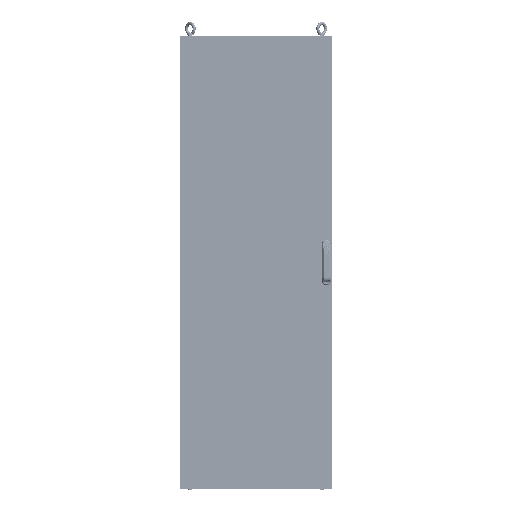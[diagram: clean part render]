
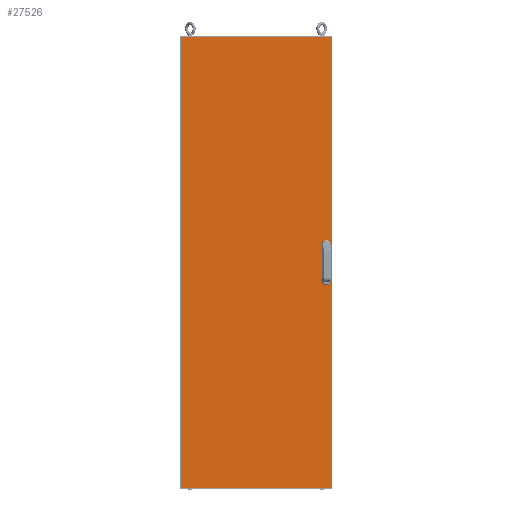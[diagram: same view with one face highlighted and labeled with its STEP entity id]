
A CAD part, front view. The second image highlights one B-rep face of the part: STEP entity #27526.
In plain terms, the highlighted planar face has unit normal (0, -1, 0).
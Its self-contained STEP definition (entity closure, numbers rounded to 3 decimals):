
#7242=ORIENTED_EDGE('',*,*,#12186,.T.);
#7243=ORIENTED_EDGE('',*,*,#12187,.T.);
#7244=ORIENTED_EDGE('',*,*,#12188,.T.);
#7245=ORIENTED_EDGE('',*,*,#12189,.T.);
#7246=ORIENTED_EDGE('',*,*,#12190,.T.);
#7247=ORIENTED_EDGE('',*,*,#12191,.T.);
#7248=ORIENTED_EDGE('',*,*,#12192,.T.);
#7249=ORIENTED_EDGE('',*,*,#12193,.T.);
#7250=ORIENTED_EDGE('',*,*,#12180,.F.);
#7251=ORIENTED_EDGE('',*,*,#12183,.F.);
#7252=ORIENTED_EDGE('',*,*,#12177,.F.);
#7253=ORIENTED_EDGE('',*,*,#12185,.F.);
#12177=EDGE_CURVE('',#15081,#15079,#17783,.T.);
#12180=EDGE_CURVE('',#15084,#15085,#17786,.T.);
#12183=EDGE_CURVE('',#15079,#15084,#17789,.T.);
#12185=EDGE_CURVE('',#15085,#15081,#17791,.T.);
#12186=EDGE_CURVE('',#15086,#15087,#17792,.T.);
#12187=EDGE_CURVE('',#15087,#15088,#17793,.T.);
#12188=EDGE_CURVE('',#15088,#15089,#17794,.T.);
#12189=EDGE_CURVE('',#15089,#15086,#17795,.T.);
#12190=EDGE_CURVE('',#15090,#15091,#17796,.T.);
#12191=EDGE_CURVE('',#15091,#15092,#17797,.T.);
#12192=EDGE_CURVE('',#15092,#15093,#17798,.T.);
#12193=EDGE_CURVE('',#15093,#15090,#17799,.T.);
#15079=VERTEX_POINT('',#46691);
#15081=VERTEX_POINT('',#46695);
#15084=VERTEX_POINT('',#46702);
#15085=VERTEX_POINT('',#46704);
#15086=VERTEX_POINT('',#46715);
#15087=VERTEX_POINT('',#46716);
#15088=VERTEX_POINT('',#46718);
#15089=VERTEX_POINT('',#46720);
#15090=VERTEX_POINT('',#46723);
#15091=VERTEX_POINT('',#46724);
#15092=VERTEX_POINT('',#46726);
#15093=VERTEX_POINT('',#46728);
#17783=LINE('',#46696,#20330);
#17786=LINE('',#46703,#20333);
#17789=LINE('',#46708,#20336);
#17791=LINE('',#46711,#20338);
#17792=LINE('',#46714,#20339);
#17793=LINE('',#46717,#20340);
#17794=LINE('',#46719,#20341);
#17795=LINE('',#46721,#20342);
#17796=LINE('',#46722,#20343);
#17797=LINE('',#46725,#20344);
#17798=LINE('',#46727,#20345);
#17799=LINE('',#46729,#20346);
#20330=VECTOR('',#38602,1000.);
#20333=VECTOR('',#38607,1000.);
#20336=VECTOR('',#38612,1000.);
#20338=VECTOR('',#38616,1000.);
#20339=VECTOR('',#38621,1000.);
#20340=VECTOR('',#38622,1000.);
#20341=VECTOR('',#38623,1000.);
#20342=VECTOR('',#38624,1000.);
#20343=VECTOR('',#38625,1000.);
#20344=VECTOR('',#38626,1000.);
#20345=VECTOR('',#38627,1000.);
#20346=VECTOR('',#38628,1000.);
#22466=EDGE_LOOP('',(#7242,#7243,#7244,#7245));
#22467=EDGE_LOOP('',(#7246,#7247,#7248,#7249));
#22468=EDGE_LOOP('',(#7250,#7251,#7252,#7253));
#24711=FACE_BOUND('',#22466,.T.);
#24712=FACE_BOUND('',#22467,.T.);
#24713=FACE_BOUND('',#22468,.T.);
#26261=PLANE('',#32596);
#27526=ADVANCED_FACE('',(#24711,#24712,#24713),#26261,.F.);
#32596=AXIS2_PLACEMENT_3D('',#46713,#38619,#38620);
#38602=DIRECTION('',(0.,0.,-1.));
#38607=DIRECTION('',(0.,0.,1.));
#38612=DIRECTION('',(-1.,0.,0.));
#38616=DIRECTION('',(1.,0.,0.));
#38619=DIRECTION('',(0.,1.,0.));
#38620=DIRECTION('',(-1.,0.,0.));
#38621=DIRECTION('',(-1.,0.,0.));
#38622=DIRECTION('',(0.,0.,1.));
#38623=DIRECTION('',(1.,0.,0.));
#38624=DIRECTION('',(0.,0.,-1.));
#38625=DIRECTION('',(-1.,0.,0.));
#38626=DIRECTION('',(0.,0.,1.));
#38627=DIRECTION('',(1.,0.,0.));
#38628=DIRECTION('',(0.,0.,-1.));
#46691=CARTESIAN_POINT('',(299.,-13.,-895.));
#46695=CARTESIAN_POINT('',(299.,-13.,895.));
#46696=CARTESIAN_POINT('',(299.,-13.,895.));
#46702=CARTESIAN_POINT('',(-299.,-13.,-895.));
#46703=CARTESIAN_POINT('',(-299.,-13.,-895.));
#46704=CARTESIAN_POINT('',(-299.,-13.,895.));
#46708=CARTESIAN_POINT('',(299.,-13.,-895.));
#46711=CARTESIAN_POINT('',(-299.,-13.,895.));
#46713=CARTESIAN_POINT('',(0.,-13.,0.));
#46714=CARTESIAN_POINT('',(290.5,-13.,25.));
#46715=CARTESIAN_POINT('',(290.5,-13.,25.));
#46716=CARTESIAN_POINT('',(265.5,-13.,25.));
#46717=CARTESIAN_POINT('',(265.5,-13.,25.));
#46718=CARTESIAN_POINT('',(265.5,-13.,75.));
#46719=CARTESIAN_POINT('',(265.5,-13.,75.));
#46720=CARTESIAN_POINT('',(290.5,-13.,75.));
#46721=CARTESIAN_POINT('',(290.5,-13.,75.));
#46722=CARTESIAN_POINT('',(290.5,-13.,-75.));
#46723=CARTESIAN_POINT('',(290.5,-13.,-75.));
#46724=CARTESIAN_POINT('',(265.5,-13.,-75.));
#46725=CARTESIAN_POINT('',(265.5,-13.,-75.));
#46726=CARTESIAN_POINT('',(265.5,-13.,-25.));
#46727=CARTESIAN_POINT('',(265.5,-13.,-25.));
#46728=CARTESIAN_POINT('',(290.5,-13.,-25.));
#46729=CARTESIAN_POINT('',(290.5,-13.,-25.));
